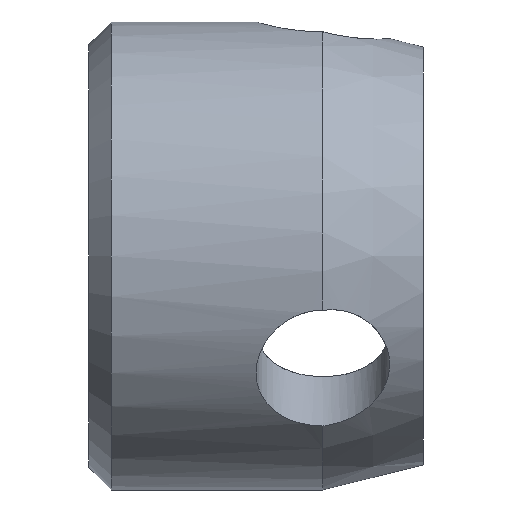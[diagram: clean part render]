
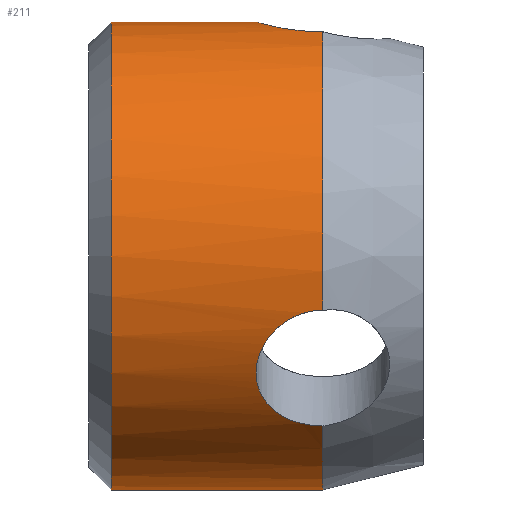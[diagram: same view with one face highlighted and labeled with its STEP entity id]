
A CAD part, front view. The second image highlights one B-rep face of the part: STEP entity #211.
In plain terms, the highlighted cylindrical face has radius 7 mm (diameter 14 mm), a partial arc.
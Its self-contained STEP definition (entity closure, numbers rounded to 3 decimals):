
#5 = VERTEX_POINT ( 'NONE', #150 ) ;
#21 = CARTESIAN_POINT ( 'NONE',  ( -4.003, -1.735, 6.782 ) ) ;
#30 = ORIENTED_EDGE ( 'NONE', *, *, #717, .T. ) ;
#38 = AXIS2_PLACEMENT_3D ( 'NONE', #63, #687, #1003 ) ;
#42 = CARTESIAN_POINT ( 'NONE',  ( -3.889, -4.961, -4.939 ) ) ;
#51 = CARTESIAN_POINT ( 'NONE',  ( -4.22, -5.109, -4.786 ) ) ;
#58 = CARTESIAN_POINT ( 'NONE',  ( -3.529, -6.797, -1.677 ) ) ;
#62 = CARTESIAN_POINT ( 'NONE',  ( -4.009, -6.744, -1.878 ) ) ;
#63 = CARTESIAN_POINT ( 'NONE',  ( -9.325, 0., 0. ) ) ;
#76 = CARTESIAN_POINT ( 'NONE',  ( -5., -6.062, -3.5 ) ) ;
#78 = VERTEX_POINT ( 'NONE', #215 ) ;
#82 = B_SPLINE_CURVE_WITH_KNOTS ( 'NONE', 3,
 ( #798, #157, #97, #735, #409, #725, #21, #475, #643, #340, #789, #258, #570, #181 ),
 .UNSPECIFIED., .F., .F.,
 ( 4, 2, 2, 2, 2, 2, 4 ),
 ( 0., 0., 0.001, 0.001, 0.002, 0.002, 0.003 ),
 .UNSPECIFIED. ) ;
#85 = DIRECTION ( 'NONE',  ( 0., 0., -1. ) ) ;
#97 = CARTESIAN_POINT ( 'NONE',  ( -3.263, -1.987, 6.712 ) ) ;
#150 = CARTESIAN_POINT ( 'NONE',  ( -3., -6.809, -1.622 ) ) ;
#157 = CARTESIAN_POINT ( 'NONE',  ( -3.133, -2., 6.708 ) ) ;
#158 = AXIS2_PLACEMENT_3D ( 'NONE', #695, #535, #85 ) ;
#167 = CARTESIAN_POINT ( 'NONE',  ( -4.735, -6.502, -2.595 ) ) ;
#181 = CARTESIAN_POINT ( 'NONE',  ( -5., 0., 7. ) ) ;
#206 = CARTESIAN_POINT ( 'NONE',  ( -3., -2., 6.708 ) ) ;
#211 = ADVANCED_FACE ( 'NONE', ( #700 ), #544, .T. ) ;
#215 = CARTESIAN_POINT ( 'NONE',  ( -3., 0., -7. ) ) ;
#220 = DIRECTION ( 'NONE',  ( 1., 0., 0. ) ) ;
#221 = CARTESIAN_POINT ( 'NONE',  ( -9.325, 0., -7. ) ) ;
#246 = CARTESIAN_POINT ( 'NONE',  ( -4.796, -6.458, -2.702 ) ) ;
#256 = ORIENTED_EDGE ( 'NONE', *, *, #425, .F. ) ;
#258 = CARTESIAN_POINT ( 'NONE',  ( -4.946, -0.529, 6.984 ) ) ;
#284 = DIRECTION ( 'NONE',  ( 1., 0., 0. ) ) ;
#298 = ORIENTED_EDGE ( 'NONE', *, *, #879, .T. ) ;
#324 = DIRECTION ( 'NONE',  ( 1., 0., 0. ) ) ;
#325 = ORIENTED_EDGE ( 'NONE', *, *, #715, .F. ) ;
#330 = VERTEX_POINT ( 'NONE', #432 ) ;
#334 = CARTESIAN_POINT ( 'NONE',  ( -4.506, -6.615, -2.292 ) ) ;
#337 = LINE ( 'NONE', #727, #572 ) ;
#340 = CARTESIAN_POINT ( 'NONE',  ( -4.597, -1.231, 6.893 ) ) ;
#354 = CARTESIAN_POINT ( 'NONE',  ( -3.263, -4.819, -5.077 ) ) ;
#367 = CARTESIAN_POINT ( 'NONE',  ( -4.746, -5.498, -4.34 ) ) ;
#394 = EDGE_CURVE ( 'NONE', #330, #417, #820, .T. ) ;
#409 = CARTESIAN_POINT ( 'NONE',  ( -3.647, -1.897, 6.738 ) ) ;
#411 = CARTESIAN_POINT ( 'NONE',  ( -4.936, -6.306, -3.041 ) ) ;
#417 = VERTEX_POINT ( 'NONE', #221 ) ;
#425 = EDGE_CURVE ( 'NONE', #330, #778, #337, .T. ) ;
#432 = CARTESIAN_POINT ( 'NONE',  ( -9.325, 0., 7. ) ) ;
#448 = AXIS2_PLACEMENT_3D ( 'NONE', #611, #284, #1002 ) ;
#475 = CARTESIAN_POINT ( 'NONE',  ( -4.22, -1.59, 6.817 ) ) ;
#481 = B_SPLINE_CURVE_WITH_KNOTS ( 'NONE', 3,
 ( #620, #936, #872, #411, #867, #246, #167, #722, #334, #728, #62, #58, #759, #518 ),
 .UNSPECIFIED., .F., .F.,
 ( 4, 2, 2, 2, 2, 2, 4 ),
 ( 0.003, 0.004, 0.004, 0.004, 0.005, 0.005, 0.006 ),
 .UNSPECIFIED. ) ;
#498 = CARTESIAN_POINT ( 'NONE',  ( -4.597, -5.354, -4.513 ) ) ;
#503 = DIRECTION ( 'NONE',  ( 1., 0., 0. ) ) ;
#510 = CARTESIAN_POINT ( 'NONE',  ( -4.003, -5.006, -4.894 ) ) ;
#514 = ORIENTED_EDGE ( 'NONE', *, *, #683, .T. ) ;
#517 = CARTESIAN_POINT ( 'NONE',  ( -4.946, -5.784, -3.95 ) ) ;
#518 = CARTESIAN_POINT ( 'NONE',  ( -3., -6.809, -1.622 ) ) ;
#527 = CARTESIAN_POINT ( 'NONE',  ( 21.562, 0., -7. ) ) ;
#532 = CARTESIAN_POINT ( 'NONE',  ( -3., -4.809, -5.086 ) ) ;
#534 = EDGE_CURVE ( 'NONE', #726, #645, #941, .T. ) ;
#535 = DIRECTION ( 'NONE',  ( 1., 0., 0. ) ) ;
#544 = CYLINDRICAL_SURFACE ( 'NONE', #158, 7. ) ;
#559 = VERTEX_POINT ( 'NONE', #206 ) ;
#568 = ORIENTED_EDGE ( 'NONE', *, *, #899, .F. ) ;
#570 = CARTESIAN_POINT ( 'NONE',  ( -5., -0.266, 7. ) ) ;
#572 = VECTOR ( 'NONE', #324, 1000. ) ;
#597 = LINE ( 'NONE', #527, #786 ) ;
#611 = CARTESIAN_POINT ( 'NONE',  ( -3., 0., 0. ) ) ;
#620 = CARTESIAN_POINT ( 'NONE',  ( -5., -6.062, -3.5 ) ) ;
#643 = CARTESIAN_POINT ( 'NONE',  ( -4.322, -1.506, 6.837 ) ) ;
#645 = VERTEX_POINT ( 'NONE', #76 ) ;
#654 = CARTESIAN_POINT ( 'NONE',  ( -3.52, -4.858, -5.04 ) ) ;
#655 = EDGE_LOOP ( 'NONE', ( #256, #994, #30, #325, #719, #514, #568, #298 ) ) ;
#660 = CARTESIAN_POINT ( 'NONE',  ( -4.322, -5.168, -4.723 ) ) ;
#670 = CARTESIAN_POINT ( 'NONE',  ( -3., 0., 0. ) ) ;
#683 = EDGE_CURVE ( 'NONE', #645, #5, #481, .T. ) ;
#687 = DIRECTION ( 'NONE',  ( 1., 0., 0. ) ) ;
#693 = AXIS2_PLACEMENT_3D ( 'NONE', #670, #503, #818 ) ;
#695 = CARTESIAN_POINT ( 'NONE',  ( 21.562, 0., 0. ) ) ;
#700 = FACE_OUTER_BOUND ( 'NONE', #655, .T. ) ;
#715 = EDGE_CURVE ( 'NONE', #726, #78, #851, .T. ) ;
#717 = EDGE_CURVE ( 'NONE', #417, #78, #597, .T. ) ;
#719 = ORIENTED_EDGE ( 'NONE', *, *, #534, .T. ) ;
#722 = CARTESIAN_POINT ( 'NONE',  ( -4.59, -6.58, -2.39 ) ) ;
#725 = CARTESIAN_POINT ( 'NONE',  ( -3.889, -1.796, 6.766 ) ) ;
#726 = VERTEX_POINT ( 'NONE', #532 ) ;
#727 = CARTESIAN_POINT ( 'NONE',  ( 21.562, 0., 7. ) ) ;
#728 = CARTESIAN_POINT ( 'NONE',  ( -4.231, -6.703, -2.026 ) ) ;
#735 = CARTESIAN_POINT ( 'NONE',  ( -3.52, -1.936, 6.727 ) ) ;
#743 = CARTESIAN_POINT ( 'NONE',  ( -3., -4.809, -5.086 ) ) ;
#757 = CARTESIAN_POINT ( 'NONE',  ( -3.647, -4.887, -5.012 ) ) ;
#759 = CARTESIAN_POINT ( 'NONE',  ( -3.266, -6.809, -1.622 ) ) ;
#778 = VERTEX_POINT ( 'NONE', #1009 ) ;
#786 = VECTOR ( 'NONE', #220, 1000. ) ;
#789 = CARTESIAN_POINT ( 'NONE',  ( -4.746, -1.01, 6.931 ) ) ;
#798 = CARTESIAN_POINT ( 'NONE',  ( -3., -2., 6.708 ) ) ;
#810 = CARTESIAN_POINT ( 'NONE',  ( -5., -5.929, -3.73 ) ) ;
#818 = DIRECTION ( 'NONE',  ( 0., 0., -1. ) ) ;
#820 = CIRCLE ( 'NONE', #38, 7. ) ;
#821 = CARTESIAN_POINT ( 'NONE',  ( -5., -6.062, -3.5 ) ) ;
#851 = CIRCLE ( 'NONE', #448, 7. ) ;
#867 = CARTESIAN_POINT ( 'NONE',  ( -4.897, -6.361, -2.925 ) ) ;
#872 = CARTESIAN_POINT ( 'NONE',  ( -4.987, -6.191, -3.27 ) ) ;
#879 = EDGE_CURVE ( 'NONE', #559, #778, #82, .T. ) ;
#899 = EDGE_CURVE ( 'NONE', #559, #5, #1007, .T. ) ;
#936 = CARTESIAN_POINT ( 'NONE',  ( -5., -6.129, -3.385 ) ) ;
#941 = B_SPLINE_CURVE_WITH_KNOTS ( 'NONE', 3,
 ( #743, #990, #354, #654, #757, #42, #510, #51, #660, #498, #367, #517, #810, #821 ),
 .UNSPECIFIED., .F., .F.,
 ( 4, 2, 2, 2, 2, 2, 4 ),
 ( 0., 0., 0.001, 0.001, 0.002, 0.002, 0.003 ),
 .UNSPECIFIED. ) ;
#990 = CARTESIAN_POINT ( 'NONE',  ( -3.133, -4.809, -5.086 ) ) ;
#994 = ORIENTED_EDGE ( 'NONE', *, *, #394, .T. ) ;
#1002 = DIRECTION ( 'NONE',  ( 0., 0., -1. ) ) ;
#1003 = DIRECTION ( 'NONE',  ( 0., 0., 1. ) ) ;
#1007 = CIRCLE ( 'NONE', #693, 7. ) ;
#1009 = CARTESIAN_POINT ( 'NONE',  ( -5., 0., 7. ) ) ;
